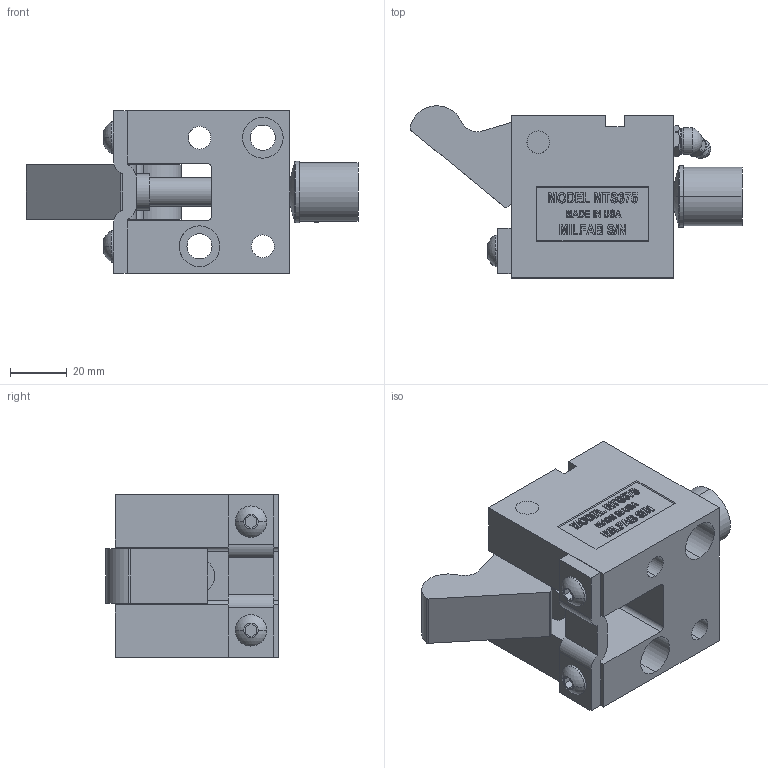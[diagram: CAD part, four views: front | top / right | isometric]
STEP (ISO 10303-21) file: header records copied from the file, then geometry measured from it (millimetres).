
FILE_DESCRIPTION (( 'STEP AP214' ), '1' );
FILE_NAME ('MTS37545-O.STEP', '2014-01-07T23:15:03', ( 'user' ), ( '' ), 'SwSTEP 2.0', 'SolidWorks 2009', '' );
FILE_SCHEMA (( 'AUTOMOTIVE_DESIGN' ));
Length unit declared in the file: inch
Products named in the file (11): 375-OFFSET TRIGGER; 375 STRIPPER OPEN; MTS375-BODY; MTS37545-O; 375-WASHER; M-I-375-POINT; MS375-PUNCH; 1-4 SCREW; 375-I-STRAP; 375 PIVOT PIN; GREASE ZERK
Assembly tree (11 placements, depth 2):
  MTS37545-O
    375-I-STRAP
    GREASE ZERK
    M-I-375-POINT
    375-WASHER
    1-4 SCREW  x2
    375 PIVOT PIN
    MS375-PUNCH
    375 STRIPPER OPEN
    MTS375-BODY
    375-OFFSET TRIGGER
Bounding box: 116.56 x 60.43 x 57.15 mm (x, y, z)
Volume: 164660.7 mm3; surface area: 47809.4 mm2
Topology: 11 solids, 11 shells, 594 faces, 1541 edges, 1012 vertices
Faces by surface type: plane 349, bspline 99, cylinder 92, cone 30, torus 20, sphere 4
Entity records: 23620 total; most frequent: CARTESIAN_POINT 9625, ORIENTED_EDGE 2994, DIRECTION 2411, EDGE_CURVE 1497, VECTOR 997, LINE 997, VERTEX_POINT 986, AXIS2_PLACEMENT_3D 707
